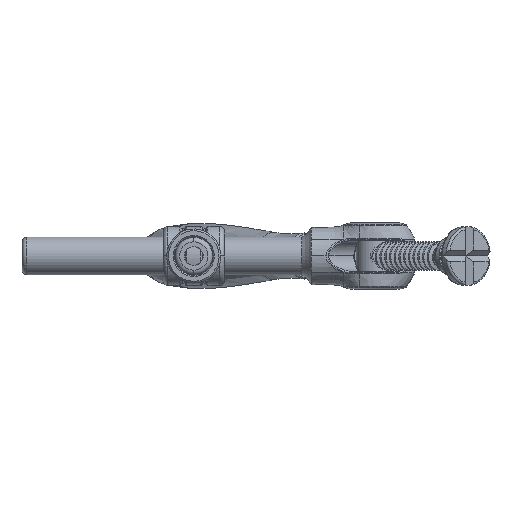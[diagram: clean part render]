
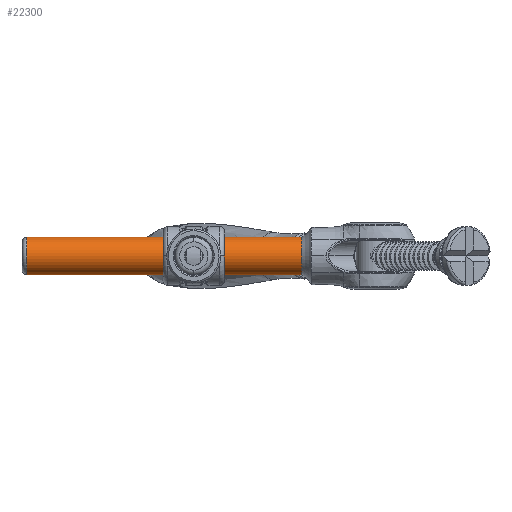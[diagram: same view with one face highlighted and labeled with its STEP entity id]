
A CAD part, front view. The second image highlights one B-rep face of the part: STEP entity #22300.
In plain terms, the highlighted cylindrical face has radius 8 mm (diameter 16 mm), a partial arc.
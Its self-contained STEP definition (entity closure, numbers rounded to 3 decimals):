
#915 = FACE_OUTER_BOUND ( 'NONE', #25478, .T. ) ;
#1263 = DIRECTION ( 'NONE',  ( 0., 0., -1. ) ) ;
#1607 = DIRECTION ( 'NONE',  ( 0., 0., 1. ) ) ;
#2343 = CARTESIAN_POINT ( 'NONE',  ( -150., 0., -8. ) ) ;
#2657 = CARTESIAN_POINT ( 'NONE',  ( -31.15, 0., -8. ) ) ;
#2758 = VERTEX_POINT ( 'NONE', #4876 ) ;
#3072 = DIRECTION ( 'NONE',  ( 1., 0., 0. ) ) ;
#3797 = CARTESIAN_POINT ( 'NONE',  ( -150., 0., 0. ) ) ;
#4876 = CARTESIAN_POINT ( 'NONE',  ( -148., 0., 8. ) ) ;
#6783 = CYLINDRICAL_SURFACE ( 'NONE', #31206, 8. ) ;
#7632 = VECTOR ( 'NONE', #3072, 1000. ) ;
#8479 = CIRCLE ( 'NONE', #17127, 8. ) ;
#11289 = DIRECTION ( 'NONE',  ( 1., 0., 0. ) ) ;
#12362 = VERTEX_POINT ( 'NONE', #28990 ) ;
#13625 = CARTESIAN_POINT ( 'NONE',  ( -31.15, 0., 0. ) ) ;
#13659 = ORIENTED_EDGE ( 'NONE', *, *, #24810, .F. ) ;
#14192 = LINE ( 'NONE', #20316, #7632 ) ;
#14473 = EDGE_CURVE ( 'NONE', #2758, #12362, #8479, .T. ) ;
#16116 = DIRECTION ( 'NONE',  ( 0., 0., 1. ) ) ;
#16468 = DIRECTION ( 'NONE',  ( 1., 0., 0. ) ) ;
#17127 = AXIS2_PLACEMENT_3D ( 'NONE', #31021, #16468, #1607 ) ;
#18200 = CARTESIAN_POINT ( 'NONE',  ( -31.15, 0., 8. ) ) ;
#19205 = EDGE_CURVE ( 'NONE', #2758, #25670, #14192, .T. ) ;
#19617 = DIRECTION ( 'NONE',  ( 1., 0., 0. ) ) ;
#20012 = AXIS2_PLACEMENT_3D ( 'NONE', #13625, #30669, #16116 ) ;
#20316 = CARTESIAN_POINT ( 'NONE',  ( -150., 0., 8. ) ) ;
#20962 = VERTEX_POINT ( 'NONE', #2657 ) ;
#22300 = ADVANCED_FACE ( 'NONE', ( #915 ), #6783, .T. ) ;
#22660 = EDGE_CURVE ( 'NONE', #12362, #20962, #24819, .T. ) ;
#22691 = ORIENTED_EDGE ( 'NONE', *, *, #14473, .T. ) ;
#24396 = CIRCLE ( 'NONE', #20012, 8. ) ;
#24810 = EDGE_CURVE ( 'NONE', #25670, #20962, #24396, .T. ) ;
#24819 = LINE ( 'NONE', #2343, #29735 ) ;
#25478 = EDGE_LOOP ( 'NONE', ( #28454, #22691, #31889, #13659 ) ) ;
#25670 = VERTEX_POINT ( 'NONE', #18200 ) ;
#28454 = ORIENTED_EDGE ( 'NONE', *, *, #19205, .F. ) ;
#28990 = CARTESIAN_POINT ( 'NONE',  ( -148., 0., -8. ) ) ;
#29735 = VECTOR ( 'NONE', #19617, 1000. ) ;
#30669 = DIRECTION ( 'NONE',  ( 1., 0., 0. ) ) ;
#31021 = CARTESIAN_POINT ( 'NONE',  ( -148., 0., 0. ) ) ;
#31206 = AXIS2_PLACEMENT_3D ( 'NONE', #3797, #11289, #1263 ) ;
#31889 = ORIENTED_EDGE ( 'NONE', *, *, #22660, .T. ) ;
